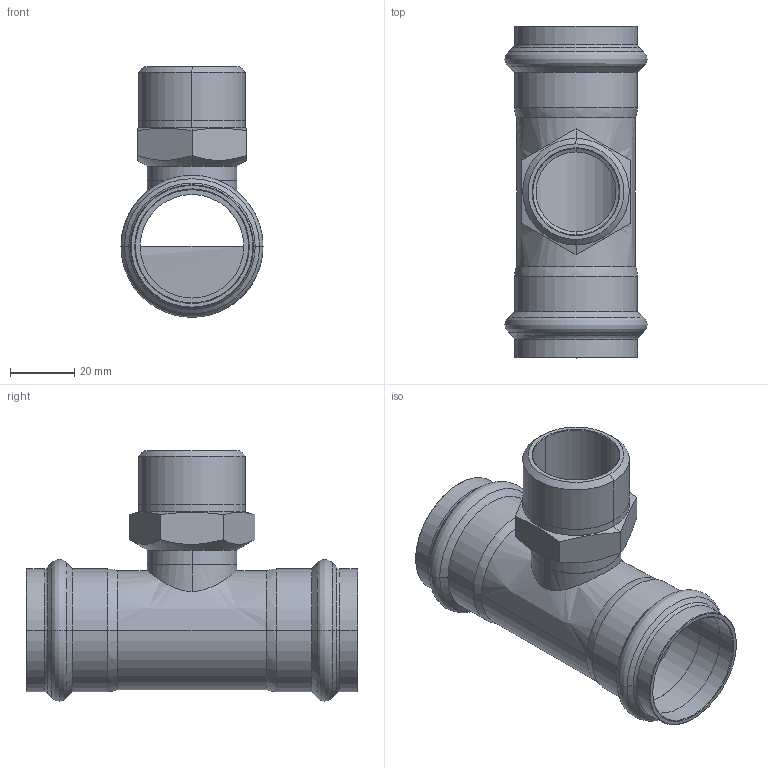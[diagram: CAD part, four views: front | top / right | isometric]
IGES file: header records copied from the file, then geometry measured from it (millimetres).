
Start section: Elysium IGES Interface
Global section: file name: C:\Users\Wallenburg\Desktop\3d modellen sudo\S-Pr VP\SP6132GV\6132GVW35135.igs; native system: CoCreate Modeling 17.00A  17-Jun-2010; preprocessor: CoCreate IGES_3D V2.2; author: Unknown; organization: Unknown; date: 20130123.163221; units: millimetre
Bounding box: 44.3 x 103.51 x 78.13 mm (x, y, z)
Volume: 32682.8 mm3; surface area: 32235.1 mm2
Topology: 1 solids, 1 shells, 114 faces, 254 edges, 140 vertices
Faces by surface type: bspline 114
